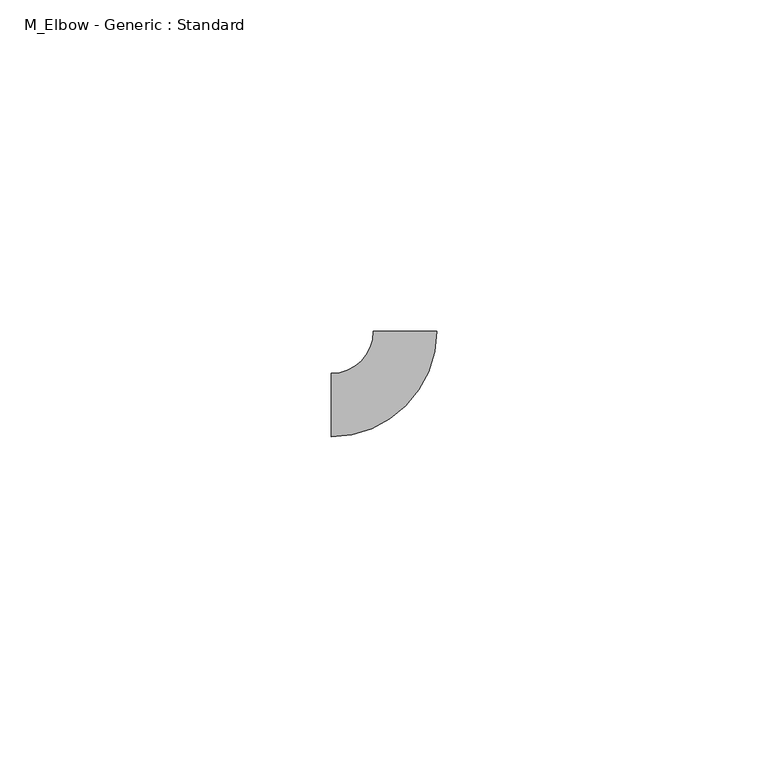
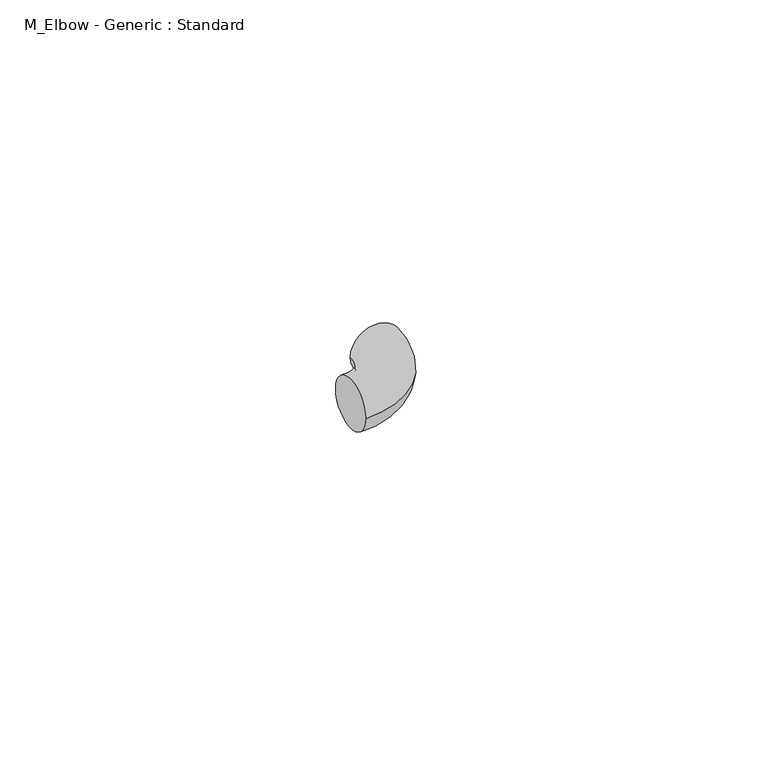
"""IFC4 building model written with IfcOpenShell, lengths in millimetres: pipe fitting geometry, M_Elbow - Generic : Standard."""

from ifc_helpers import new_model, si_unit, point, frame, origin, place, context, project, spatial, circle_curve, ellipse_curve, trimmed, source, transform, mapped, element, save
from ifc_brep_helpers import plane_surface, revolved_surface, advanced_brep


def m_elbow_generic_standard_1e2c9127(model_context):
    return source(origin(), model_context, "Body", "AdvancedBrep", [
        advanced_brep(
        [(-11.1121816, -4.7625, 0.0), (-11.1121816, 4.7625, 0.0), (4.7628184, 11.1120451, 0.0), (-4.7621816, 11.112318, 0.0)],
        [
            (0, 1, circle_curve(frame((-11.1121816, 0.0, 0.0), z_axis=(-1.0, 0.0, 0.0), x_axis=(0.0, 1.0, 0.0)), 4.7625)),
            (1, 0, circle_curve(frame((-11.1121816, 0.0, 0.0), z_axis=(-1.0, 0.0, 0.0), x_axis=(0.0, 1.0, 0.0)), 4.7625)),
            (2, 3, circle_curve(frame((0.0003184, 11.1121816, 0.0), z_axis=(2.8656408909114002e-05, 0.9999999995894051, 0.0), x_axis=(-0.9999999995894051, 2.8656408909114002e-05, 0.0)), 4.7625)),
            (3, 2, circle_curve(frame((0.0003184, 11.1121816, 0.0), z_axis=(2.8656408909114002e-05, 0.9999999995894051, 0.0), x_axis=(-0.9999999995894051, 2.8656408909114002e-05, 0.0)), 4.7625)),
            (3, 1, circle_curve(frame((-11.1121816, 11.1125, 0.0), z_axis=(0.0, 0.0, -1.0), x_axis=(0.0, -1.0, 0.0)), 6.35)),
            (0, 2, circle_curve(frame((-11.1121816, 11.1125, 0.0), z_axis=(0.0, 0.0, 1.0), x_axis=(0.0, -1.0, 0.0)), 15.875)),
        ],
        [
            plane_surface(frame((-11.1121816, 0.0, 0.0), z_axis=(-1.0, 0.0, 0.0), x_axis=(0.0, 0.0, 1.0))),
            plane_surface(frame((0.0003184, 11.1121816, 0.0), z_axis=(2.8656408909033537e-05, 0.9999999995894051, 0.0), x_axis=(0.0, 0.0, 1.0))),
            revolved_surface(trimmed(ellipse_curve(frame((-11.1121816, 0.0, 0.0), z_axis=(-1.0, 0.0, 0.0), x_axis=(0.0, 1.0, 0.0)), 4.7625, 4.7625), [point((-11.1121816, -4.7625, 0.0))], [point((-11.1121816, 4.7625, 0.0))], True, "CARTESIAN"), (-11.1121816, 11.1125, 0.0), (0.0, 0.0, 1.0)),
            revolved_surface(trimmed(ellipse_curve(frame((-11.1121816, 0.0, 0.0), z_axis=(-1.0, 0.0, 0.0), x_axis=(0.0, 1.0, 0.0)), 4.7625, 4.7625), [point((-11.1121816, 4.7625, 0.0))], [point((-11.1121816, -4.7625, 0.0))], True, "CARTESIAN"), (-11.1121816, 11.1125, 0.0), (0.0, 0.0, 1.0)),
        ],
        [
            (0, [[1, 2]]),
            (1, [[3, 4]]),
            (2, [[5, -1, 6, -4]]),
            (3, [[-6, -2, -5, -3]]),
        ],
    ),
    ])


if __name__ == "__main__":
    model = new_model("IFC4")
    model_context = context("Model", 3, world=origin())
    ifc_project = project(units=[si_unit("LENGTHUNIT", "METRE", prefix="MILLI")], contexts=[model_context])
    site = spatial("IfcSite", under=ifc_project)
    building = spatial("IfcBuilding", under=site)
    placement = place(None, origin())
    m_elbow_generic_standard_shape = m_elbow_generic_standard_1e2c9127(model_context)
    element("IfcPipeFitting", 1, ObjectType="M_Elbow - Generic : Standard", at=placement, inside=building, context=model_context, shape_type="MappedRepresentation", body=[
        mapped(m_elbow_generic_standard_shape, transform((0.0, 0.0, 0.0), x_axis=(1.0, 0.0, 0.0), y_axis=(0.0, 1.0, 0.0), z_axis=(0.0, 0.0, 1.0))),
    ])
    save(model, "model.ifc")
